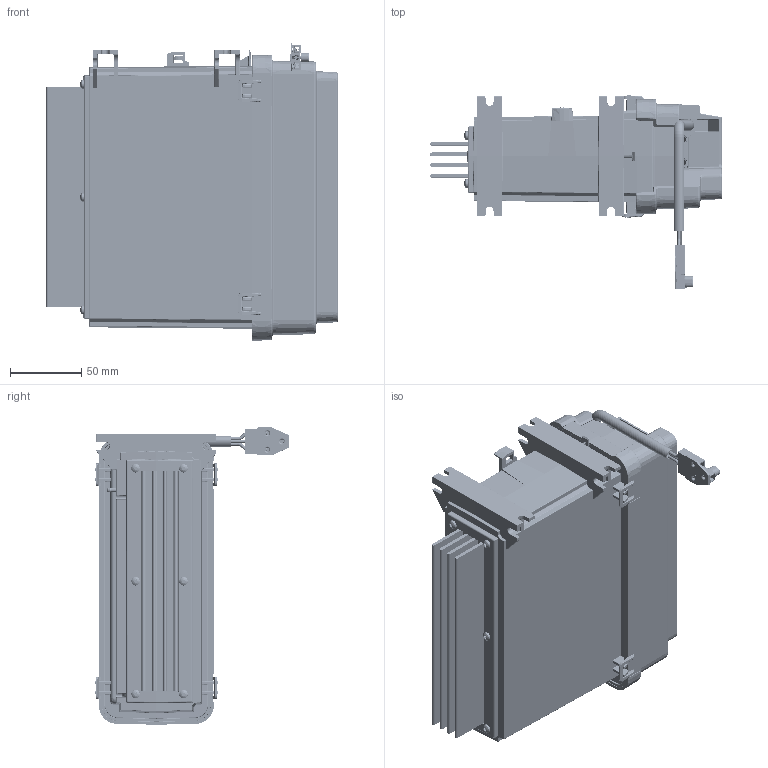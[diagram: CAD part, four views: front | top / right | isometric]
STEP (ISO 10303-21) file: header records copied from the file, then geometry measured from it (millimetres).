
FILE_DESCRIPTION((''),'2;1');
FILE_NAME('105N4910_ASM','2023-04-25T09:43:45',('dehc5875'),(''),'CREO PARAMETRIC BY PTC INC, 2022162','CREO PARAMETRIC BY PTC INC, 2022162','');
FILE_SCHEMA(('CONFIG_CONTROL_DESIGN'));
Products named in the file (17): 105B4541; 640N0044; 105B4546; 105B9090_ASM; 640N2628; 640N0360; 105B4548_SAE; 105B1082_ASM; 105B4547; 105B4542; 105B4459; 105B4545; 640N2369; 105A0300; 105A0299; 640N2416; 105N4910_ASM
Assembly tree (40 placements, depth 4):
  105N4910_ASM
    105B4541
    105B1082_ASM
      640N0044  x11
      105B9090_ASM
        105B4546
      640N2628  x3
      640N0360  x3
      105B4548_SAE
    105B4547
    105B4542
    105B4459  x3
    105B4545
    640N2369  x4
    105A0300
    105A0299
    640N2416  x6
Bounding box: 203.9 x 135.9 x 207.98 mm (x, y, z)
Volume: 469354.4 mm3; surface area: 464479 mm2
Topology: 35 solids, 109 shells, 10726 faces, 29364 edges, 19070 vertices
Faces by surface type: plane 5146, cylinder 2695, bspline 1080, cone 590, torus 525, extrusion 474, sphere 216
Entity records: 362561 total; most frequent: CARTESIAN_POINT 121689, ORIENTED_EDGE 51731, DIRECTION 45063, EDGE_CURVE 27054, VECTOR 18925, LINE 18451, VERTEX_POINT 17627, AXIS2_PLACEMENT_3D 13069
